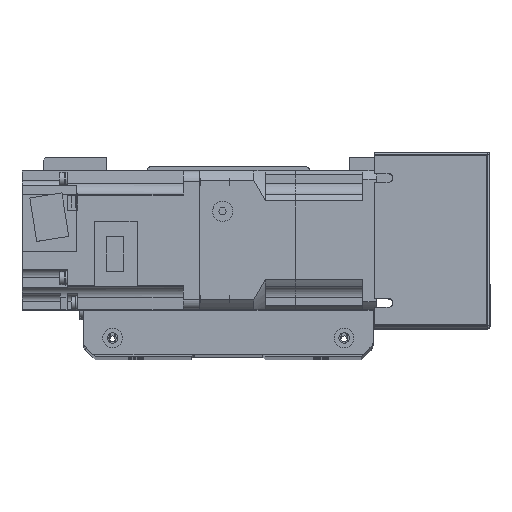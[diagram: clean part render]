
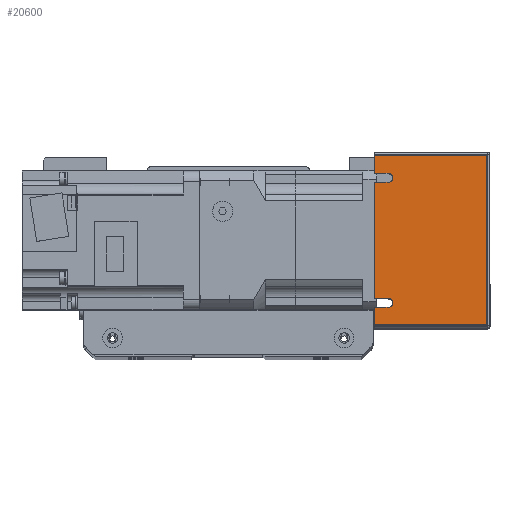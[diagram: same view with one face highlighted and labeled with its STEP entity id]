
A CAD part, top view. The second image highlights one B-rep face of the part: STEP entity #20600.
In plain terms, the highlighted planar face has unit normal (0, 0, 1) as drawn and (-1, 0, 0) by its records, which use the part's own axes.
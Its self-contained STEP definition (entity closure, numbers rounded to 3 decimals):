
#665=PLANE('',#22773);
#1995=LINE('',#34433,#3619);
#2002=LINE('',#34449,#3626);
#2011=LINE('',#34469,#3635);
#2019=LINE('',#34487,#3643);
#2034=LINE('',#34530,#3658);
#2036=LINE('',#34537,#3660);
#2039=LINE('',#34546,#3663);
#2044=LINE('',#34560,#3668);
#2045=LINE('',#34562,#3669);
#2046=LINE('',#34563,#3670);
#3619=VECTOR('',#28020,10.);
#3626=VECTOR('',#28031,10.);
#3635=VECTOR('',#28044,10.);
#3643=VECTOR('',#28056,10.);
#3658=VECTOR('',#28101,10.);
#3660=VECTOR('',#28109,10.);
#3663=VECTOR('',#28118,10.);
#3668=VECTOR('',#28131,10.);
#3669=VECTOR('',#28132,10.);
#3670=VECTOR('',#28133,10.);
#5972=FACE_OUTER_BOUND('',#7560,.T.);
#7560=EDGE_LOOP('',(#17896,#17897,#17898,#17899,#17900,#17901,#17902,#17903,
#17904,#17905,#17906,#17907));
#8690=CIRCLE('',#22752,2.);
#8695=CIRCLE('',#22760,2.);
#10367=VERTEX_POINT('',#34430);
#10368=VERTEX_POINT('',#34432);
#10374=VERTEX_POINT('',#34446);
#10375=VERTEX_POINT('',#34448);
#10383=VERTEX_POINT('',#34466);
#10384=VERTEX_POINT('',#34468);
#10391=VERTEX_POINT('',#34484);
#10392=VERTEX_POINT('',#34486);
#10405=VERTEX_POINT('',#34529);
#10410=VERTEX_POINT('',#34544);
#10415=VERTEX_POINT('',#34559);
#10416=VERTEX_POINT('',#34561);
#12907=EDGE_CURVE('',#10367,#10368,#1995,.T.);
#12914=EDGE_CURVE('',#10374,#10375,#2002,.T.);
#12923=EDGE_CURVE('',#10383,#10384,#2011,.T.);
#12931=EDGE_CURVE('',#10391,#10392,#2019,.T.);
#12938=EDGE_CURVE('',#10375,#10367,#8690,.T.);
#12949=EDGE_CURVE('',#10392,#10383,#8695,.T.);
#12955=EDGE_CURVE('',#10405,#10384,#2034,.T.);
#12959=EDGE_CURVE('',#10391,#10368,#2036,.T.);
#12964=EDGE_CURVE('',#10374,#10410,#2039,.T.);
#12971=EDGE_CURVE('',#10410,#10415,#2044,.T.);
#12972=EDGE_CURVE('',#10415,#10416,#2045,.T.);
#12973=EDGE_CURVE('',#10416,#10405,#2046,.T.);
#17896=ORIENTED_EDGE('',*,*,#12907,.F.);
#17897=ORIENTED_EDGE('',*,*,#12938,.F.);
#17898=ORIENTED_EDGE('',*,*,#12914,.F.);
#17899=ORIENTED_EDGE('',*,*,#12964,.T.);
#17900=ORIENTED_EDGE('',*,*,#12971,.T.);
#17901=ORIENTED_EDGE('',*,*,#12972,.T.);
#17902=ORIENTED_EDGE('',*,*,#12973,.T.);
#17903=ORIENTED_EDGE('',*,*,#12955,.T.);
#17904=ORIENTED_EDGE('',*,*,#12923,.F.);
#17905=ORIENTED_EDGE('',*,*,#12949,.F.);
#17906=ORIENTED_EDGE('',*,*,#12931,.F.);
#17907=ORIENTED_EDGE('',*,*,#12959,.T.);
#20600=ADVANCED_FACE('',(#5972),#665,.F.);
#22752=AXIS2_PLACEMENT_3D('',#34500,#28068,#28069);
#22760=AXIS2_PLACEMENT_3D('',#34518,#28090,#28091);
#22773=AXIS2_PLACEMENT_3D('',#34558,#28129,#28130);
#28020=DIRECTION('',(0.,0.,-1.));
#28031=DIRECTION('',(0.,0.,1.));
#28044=DIRECTION('',(0.,0.,-1.));
#28056=DIRECTION('',(0.,0.,1.));
#28068=DIRECTION('center_axis',(-1.,0.,0.));
#28069=DIRECTION('ref_axis',(0.,0.,-1.));
#28090=DIRECTION('center_axis',(-1.,0.,0.));
#28091=DIRECTION('ref_axis',(0.,0.,-1.));
#28101=DIRECTION('',(0.,-1.,0.));
#28109=DIRECTION('',(0.,-1.,0.));
#28118=DIRECTION('',(0.,-1.,0.));
#28129=DIRECTION('center_axis',(1.,0.,0.));
#28130=DIRECTION('ref_axis',(0.,-1.,0.));
#28131=DIRECTION('',(0.,0.,1.));
#28132=DIRECTION('',(0.,1.,0.));
#28133=DIRECTION('',(0.,0.,-1.));
#34430=CARTESIAN_POINT('',(-91.,-25.,-19.));
#34432=CARTESIAN_POINT('',(-91.,-25.,-25.));
#34433=CARTESIAN_POINT('',(-91.,-25.,-9.5));
#34446=CARTESIAN_POINT('',(-91.,-29.,-25.));
#34448=CARTESIAN_POINT('',(-91.,-29.,-19.));
#34449=CARTESIAN_POINT('',(-91.,-29.,-15.178));
#34466=CARTESIAN_POINT('',(-91.,29.,-19.));
#34468=CARTESIAN_POINT('',(-91.,29.,-25.));
#34469=CARTESIAN_POINT('',(-91.,29.,-9.5));
#34484=CARTESIAN_POINT('',(-91.,25.,-25.));
#34486=CARTESIAN_POINT('',(-91.,25.,-19.));
#34487=CARTESIAN_POINT('',(-91.,25.,-15.178));
#34500=CARTESIAN_POINT('Origin',(-91.,-27.,-19.));
#34518=CARTESIAN_POINT('Origin',(-91.,27.,-19.));
#34529=CARTESIAN_POINT('',(-91.,37.,-25.));
#34530=CARTESIAN_POINT('',(-91.,-38.,-25.));
#34537=CARTESIAN_POINT('',(-91.,-38.,-25.));
#34544=CARTESIAN_POINT('',(-91.,-37.,-25.));
#34546=CARTESIAN_POINT('',(-91.,-38.,-25.));
#34558=CARTESIAN_POINT('Origin',(-91.,38.,0.));
#34559=CARTESIAN_POINT('',(-91.,-37.,24.));
#34560=CARTESIAN_POINT('',(-91.,-37.,0.));
#34561=CARTESIAN_POINT('',(-91.,37.,24.));
#34562=CARTESIAN_POINT('',(-91.,19.,24.));
#34563=CARTESIAN_POINT('',(-91.,37.,0.));
